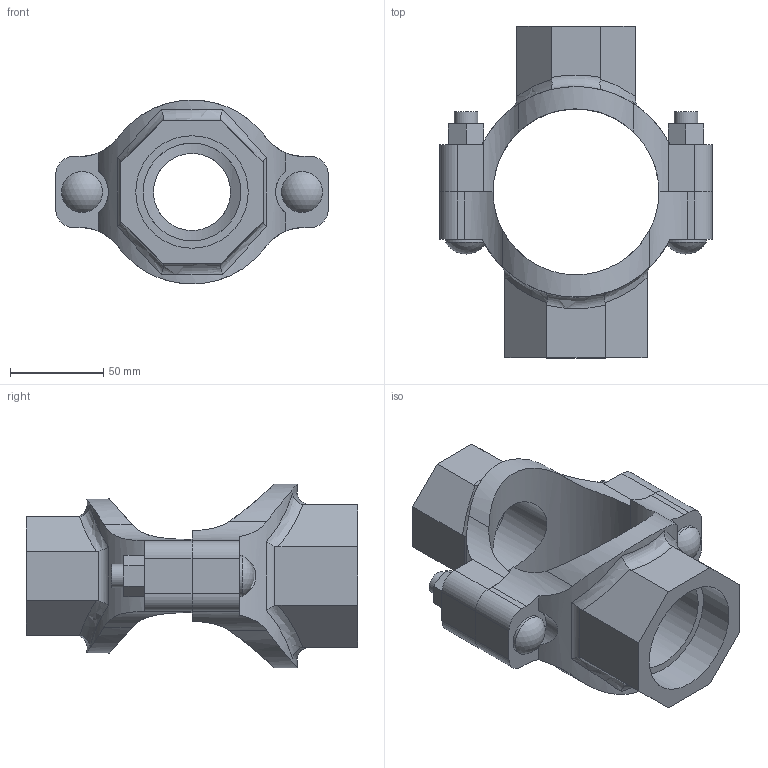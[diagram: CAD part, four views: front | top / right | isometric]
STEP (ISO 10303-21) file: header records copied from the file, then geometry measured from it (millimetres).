
FILE_DESCRIPTION(/* description */ ('VIC MECH-T BRANCH OUTLET CROSS STYLE 920N (THD)','CAx-IF Rec.Pracs.---Representation and Presentation of Product Manufacturing Information (PMI)---4.0---2014-10-13'),/* implementation_level */ '2;1');
FILE_NAME(/* name */ 'C:\Users\Vjadhav\AppData\Roaming\Autodesk\ApplicationPlugins\Back Up\Victaulic_IPS_Mechanical-Cross Outlet_Style 920N (FPT)\Victaulic_IPS_Mechanical-Cross Outlet_03.0x01.5x02.0 (80x40x50).stp',/* time_stamp */ '2020-08-06T18:57:47+05:00',/* author */ ('Vjadhav'),/* organization */ ('Victaulic'),/* preprocessor_version */ 'ST-DEVELOPER v17.2',/* originating_system */ 'Autodesk Inventor 2019',/* authorisation */ '');
FILE_SCHEMA (('AP242_MANAGED_MODEL_BASED_3D_ENGINEERING_MIM_LF { 1 0 10303 442 1 1 4 }'));
Length unit declared in the file: inch
Products named in the file (3): 920NT-03.0x01.5x02.0; 920NT-03.0x01.5; 920NT-03.0x02.0
Assembly tree (2 placements, depth 2):
  920NT-03.0x01.5x02.0
    920NT-03.0x01.5
    920NT-03.0x02.0
Bounding box: 146.05 x 177.8 x 98.48 mm (x, y, z)
Volume: 410242.6 mm3; surface area: 95389.6 mm2
Topology: 2 solids, 2 shells, 132 faces, 350 edges, 236 vertices
Faces by surface type: plane 68, cylinder 50, bspline 8, torus 4, sphere 2
Full cylindrical faces by diameter (mm): 12.7 x4, 21.982 x2, 41.275 x1, 48.26 x1, 52.387 x1, 60.325 x1
Entity records: 5200 total; most frequent: CARTESIAN_POINT 1687, ORIENTED_EDGE 700, DIRECTION 648, EDGE_CURVE 350, VERTEX_POINT 236, AXIS2_PLACEMENT_3D 231, LINE 186, VECTOR 186
